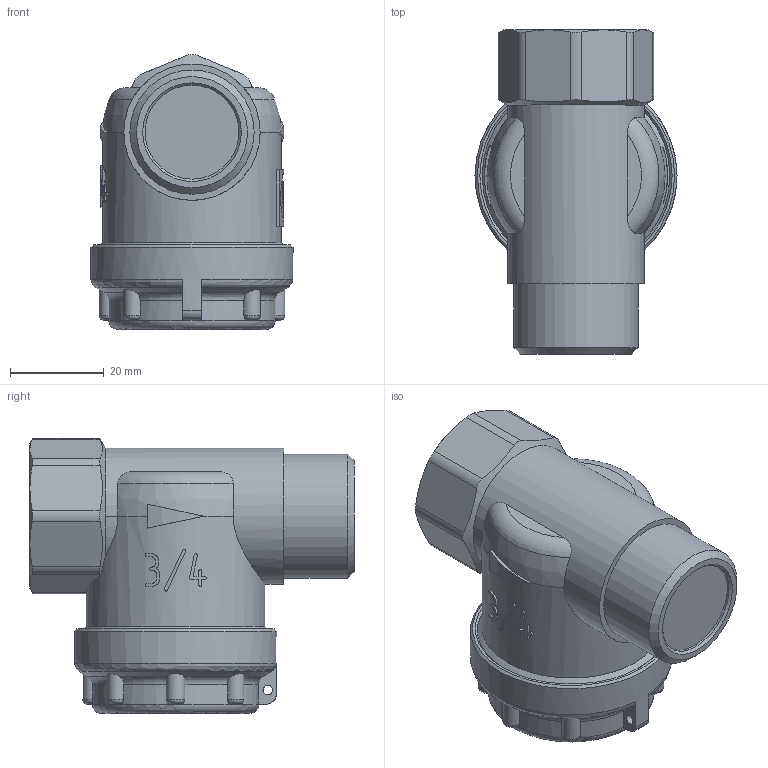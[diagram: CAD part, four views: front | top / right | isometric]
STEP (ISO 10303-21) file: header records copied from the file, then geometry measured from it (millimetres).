
FILE_DESCRIPTION(('STEP AP203'), '1');
FILE_NAME('VT.387.N.05', '2024-06-19T12:42:06', ('User'), ('Vesta'), 'C3D Converter', 'C3D Toolkit', '');
FILE_SCHEMA(('CONFIG_CONTROL_DESIGN'));
Length unit declared in the file: millimetre
Products named in the file (1): ВР.061146.010.000 СБ
Bounding box: 43 x 69 x 58.53 mm (x, y, z)
Volume: 79132.3 mm3; surface area: 13562.7 mm2
Topology: 1 solids, 3 shells, 213 faces, 561 edges, 363 vertices
Faces by surface type: plane 78, extrusion 53, cylinder 44, torus 20, cone 16, sphere 2
Full cylindrical faces by diameter (mm): 2 x1, 20 x1, 24.118 x1, 26.441 x1, 29 x1, 38 x1, 43 x1
Entity records: 11108 total; most frequent: CARTESIAN_POINT 6297, ORIENTED_EDGE 1088, DIRECTION 804, EDGE_CURVE 544, VERTEX_POINT 362, AXIS2_PLACEMENT_3D 288, B_SPLINE_CURVE_WITH_KNOTS 255, EDGE_LOOP 238
